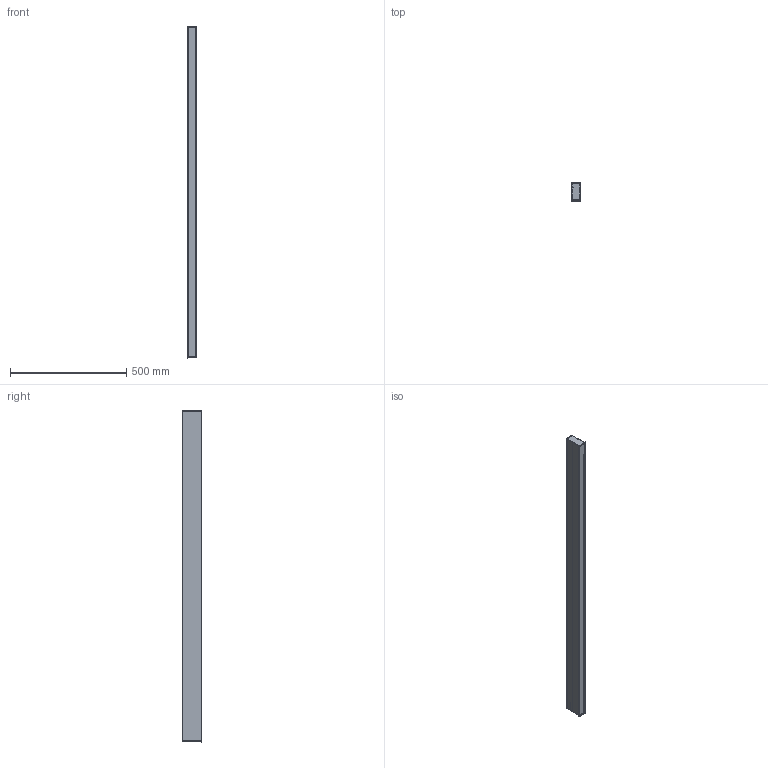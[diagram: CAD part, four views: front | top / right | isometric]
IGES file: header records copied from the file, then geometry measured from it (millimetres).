
Start section: SolidWorks IGES file using analytic representation for surfaces
Global section: file name: C:\Users\JoãoSantos\Desktop\02_3D.2D\01_2020\02_Linear\04_U35\01_Recessed\U35_RECESSED_1429.IGS; native system: SolidWorks 2020; preprocessor: SolidWorks 2020; author: JoãoSantos; date: 201022.124327; units: millimetre
Bounding box: 42 x 83 x 1425 mm (x, y, z)
Surface area: 826576.5 mm2 (no closed solid volume)
Topology: 0 solids, 0 shells, 201 faces, 1612 edges, 1604 vertices
Faces by surface type: revolution 103, bspline 98
